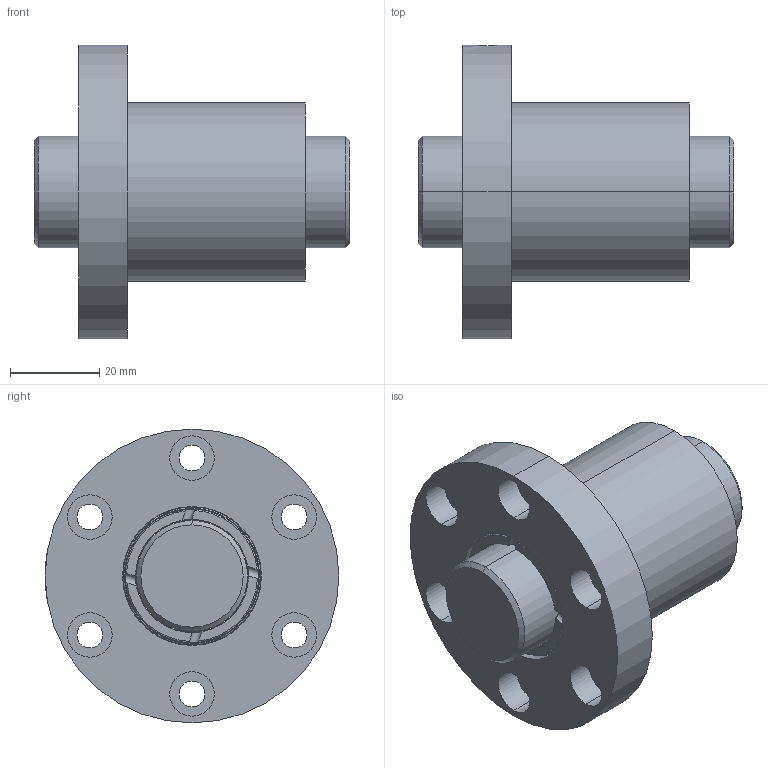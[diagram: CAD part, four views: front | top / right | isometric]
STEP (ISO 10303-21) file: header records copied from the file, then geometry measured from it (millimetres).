
FILE_DESCRIPTION (( 'STEP AP203' ), '1' );
FILE_NAME ('SFZR02505T4N-C.STEP', '2020-06-18T00:57:47', ( '' ), ( '' ), 'SwSTEP 2.0', 'SolidWorks 2013', '' );
FILE_SCHEMA (( 'CONFIG_CONTROL_DESIGN' ));
Length unit declared in the file: millimetre
Products named in the file (1): SFZR02505T4N-C
Bounding box: 71 x 66 x 66 mm (x, y, z)
Volume: 90225 mm3; surface area: 28027.1 mm2
Topology: 2 solids, 2 shells, 116 faces, 292 edges, 190 vertices
Faces by surface type: cylinder 66, plane 26, torus 20, cone 4
Entity records: 4387 total; most frequent: CARTESIAN_POINT 1441, DIRECTION 632, ORIENTED_EDGE 584, EDGE_CURVE 292, AXIS2_PLACEMENT_3D 279, VERTEX_POINT 190, CIRCLE 162, EDGE_LOOP 144
